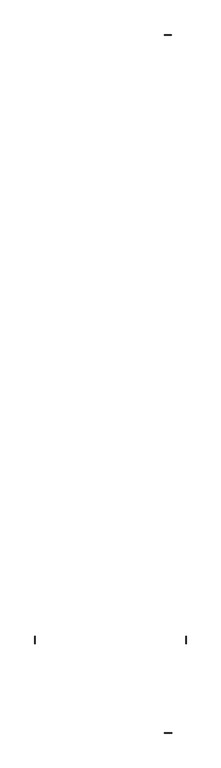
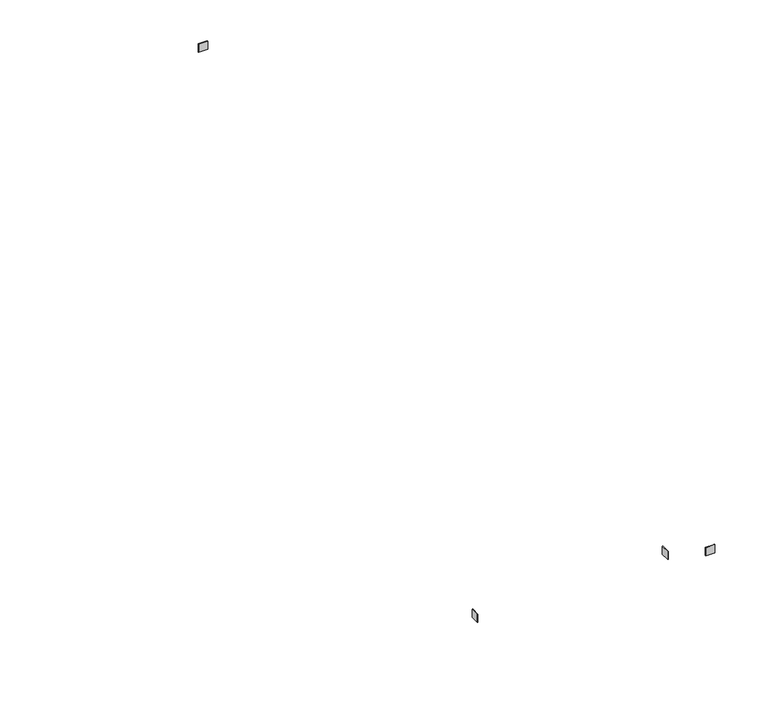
"""IFC4 building model written with IfcOpenShell, lengths in millimetres: damper geometry, Tapas Canalon : Tapas Canalon."""

from ifc_helpers import new_model, si_unit, frame, origin, place, context, project, spatial, polyline, outline, extrude, source, transform, mapped, element, save


def damper_fd79afff(model_context):
    return source(origin(), model_context, "Body", "SweptSolid", [
        extrude(outline(polyline([(-4788.3623738, 10465.4751074), (-4788.3623738, 10455.4751074), (-4939.3123738, 10455.4751074), (-4939.3123738, 10465.4751074), (-4788.3623738, 10465.4751074)])), frame((0.0, 0.0, 3885.1035036), z_axis=(0.0, 0.0, 1.0), x_axis=(1.0, 0.0, 0.0)), (0.0, 0.0, 1.0), 141.425),
        extrude(outline(polyline([(-4785.1873738, -4076.3927727), (-4785.1873738, -4086.3927727), (-4939.3123738, -4086.3927727), (-4939.3123738, -4076.3927727), (-4785.1873738, -4076.3927727)])), frame((0.0, 0.0, 3885.1035036), z_axis=(0.0, 0.0, 1.0), x_axis=(1.0, 0.0, 0.0)), (0.0, 0.0, 1.0), 141.425),
        extrude(outline(polyline([(-4495.1873738, -2223.2177727), (-4495.1873738, -2072.2677727), (-4485.1873738, -2072.2677727), (-4485.1873738, -2223.2177727), (-4495.1873738, -2223.2177727)])), frame((0.0, 0.0, 2533.362383), z_axis=(0.0, 0.0, 1.0), x_axis=(1.0, 0.0, 0.0)), (0.0, 0.0, 1.0), 141.425),
        extrude(outline(polyline([(-7635.1873738, -2072.2677727), (-7635.1873738, -2223.2177727), (-7645.1873738, -2223.2177727), (-7645.1873738, -2072.2677727), (-7635.1873738, -2072.2677727)])), frame((0.0, 0.0, 2533.362383), z_axis=(0.0, 0.0, 1.0), x_axis=(1.0, 0.0, 0.0)), (0.0, 0.0, 1.0), 141.425),
    ])


if __name__ == "__main__":
    model = new_model("IFC4")
    model_context = context("Model", 3, world=origin())
    ifc_project = project(units=[si_unit("LENGTHUNIT", "METRE", prefix="MILLI")], contexts=[model_context])
    site = spatial("IfcSite", under=ifc_project)
    building = spatial("IfcBuilding", under=site)
    placement = place(None, origin())
    damper_shape = damper_fd79afff(model_context)
    element("IfcDamper", 1, ObjectType="Tapas Canalon : Tapas Canalon", at=placement, inside=building, context=model_context, shape_type="MappedRepresentation", body=[
        mapped(damper_shape, transform((0.0, 0.0, 0.0), x_axis=(1.0, 0.0, 0.0), y_axis=(0.0, 1.0, 0.0), z_axis=(0.0, 0.0, 1.0))),
    ])
    save(model, "model.ifc")
